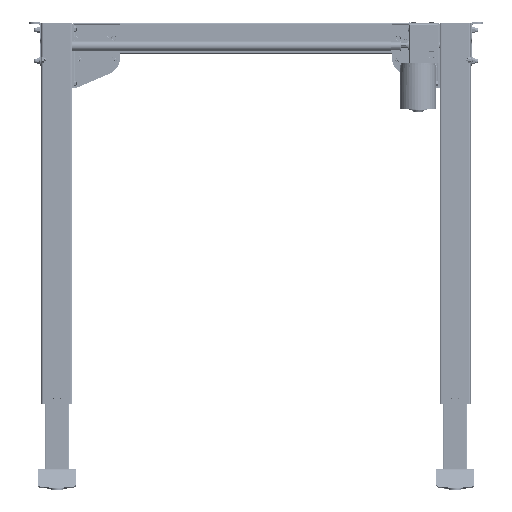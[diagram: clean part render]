
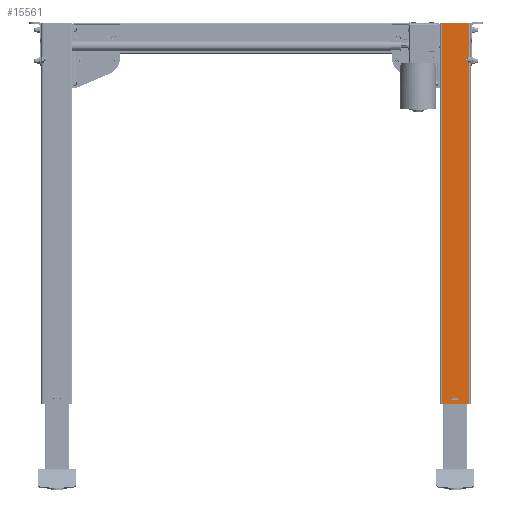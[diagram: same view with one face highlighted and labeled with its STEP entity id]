
A CAD part, top view. The second image highlights one B-rep face of the part: STEP entity #15561.
In plain terms, the highlighted planar face has unit normal (0, 0, 1) as drawn and (0, 1, 0) by its records, which use the part's own axes.
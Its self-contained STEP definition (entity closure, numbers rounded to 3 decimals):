
#378 = DIRECTION ( 'NONE',  ( -1., 0., 0. ) ) ;
#8198 = VECTOR ( 'NONE', #103008, 1000. ) ;
#14270 = DIRECTION ( 'NONE',  ( 0., 0., -1. ) ) ;
#15315 = CARTESIAN_POINT ( 'NONE',  ( 22., 35., 0. ) ) ;
#15561 = ADVANCED_FACE ( 'NONE', ( #105110, #92235 ), #144505, .F. ) ;
#16232 = CARTESIAN_POINT ( 'NONE',  ( 22., 35., 616.5 ) ) ;
#19795 = EDGE_CURVE ( 'NONE', #75731, #146938, #153726, .T. ) ;
#24553 = ORIENTED_EDGE ( 'NONE', *, *, #154688, .F. ) ;
#25128 = CARTESIAN_POINT ( 'NONE',  ( 6.15, 35., 6. ) ) ;
#30362 = EDGE_CURVE ( 'NONE', #53455, #118197, #41592, .T. ) ;
#30635 = DIRECTION ( 'NONE',  ( 0., 0., -1. ) ) ;
#33757 = EDGE_CURVE ( 'NONE', #114489, #56693, #90021, .T. ) ;
#34145 = DIRECTION ( 'NONE',  ( -1., 0., 0. ) ) ;
#38161 = LINE ( 'NONE', #92091, #129318 ) ;
#41381 = VERTEX_POINT ( 'NONE', #15315 ) ;
#41592 = LINE ( 'NONE', #65660, #130582 ) ;
#45037 = EDGE_LOOP ( 'NONE', ( #65781, #48780, #24553, #114649 ) ) ;
#46722 = CARTESIAN_POINT ( 'NONE',  ( 6.15, 35., 10. ) ) ;
#47264 = CARTESIAN_POINT ( 'NONE',  ( -22., 35., 614. ) ) ;
#47714 = VECTOR ( 'NONE', #34145, 1000. ) ;
#48780 = ORIENTED_EDGE ( 'NONE', *, *, #19795, .F. ) ;
#51001 = LINE ( 'NONE', #132283, #51209 ) ;
#51209 = VECTOR ( 'NONE', #378, 1000. ) ;
#51275 = VECTOR ( 'NONE', #143367, 1000. ) ;
#52201 = CARTESIAN_POINT ( 'NONE',  ( -6.15, 35., 10. ) ) ;
#53455 = VERTEX_POINT ( 'NONE', #66548 ) ;
#54480 = DIRECTION ( 'NONE',  ( 0., 0., 1. ) ) ;
#56693 = VERTEX_POINT ( 'NONE', #121302 ) ;
#65660 = CARTESIAN_POINT ( 'NONE',  ( -6.15, 35., 6. ) ) ;
#65781 = ORIENTED_EDGE ( 'NONE', *, *, #124674, .F. ) ;
#66548 = CARTESIAN_POINT ( 'NONE',  ( -6.15, 35., 6. ) ) ;
#69972 = ORIENTED_EDGE ( 'NONE', *, *, #92012, .T. ) ;
#70881 = EDGE_LOOP ( 'NONE', ( #69972, #166263, #146493, #138895 ) ) ;
#72654 = LINE ( 'NONE', #163489, #117498 ) ;
#75731 = VERTEX_POINT ( 'NONE', #46722 ) ;
#79392 = CARTESIAN_POINT ( 'NONE',  ( -22., 35., 614. ) ) ;
#90021 = LINE ( 'NONE', #47264, #144500 ) ;
#92012 = EDGE_CURVE ( 'NONE', #41381, #56693, #38161, .T. ) ;
#92091 = CARTESIAN_POINT ( 'NONE',  ( -22., 35., 0. ) ) ;
#92235 = FACE_OUTER_BOUND ( 'NONE', #70881, .T. ) ;
#93259 = LINE ( 'NONE', #114153, #8198 ) ;
#99815 = EDGE_CURVE ( 'NONE', #145050, #41381, #72654, .T. ) ;
#103008 = DIRECTION ( 'NONE',  ( 1., 0., 0. ) ) ;
#105110 = FACE_BOUND ( 'NONE', #45037, .T. ) ;
#112340 = DIRECTION ( 'NONE',  ( 0., 0., -1. ) ) ;
#114153 = CARTESIAN_POINT ( 'NONE',  ( 6.15, 35., 10. ) ) ;
#114489 = VERTEX_POINT ( 'NONE', #146804 ) ;
#114649 = ORIENTED_EDGE ( 'NONE', *, *, #30362, .F. ) ;
#117498 = VECTOR ( 'NONE', #30635, 1000. ) ;
#118197 = VERTEX_POINT ( 'NONE', #52201 ) ;
#121302 = CARTESIAN_POINT ( 'NONE',  ( -22., 35., 0. ) ) ;
#121589 = AXIS2_PLACEMENT_3D ( 'NONE', #79392, #131647, #14270 ) ;
#124674 = EDGE_CURVE ( 'NONE', #146938, #53455, #51001, .T. ) ;
#129318 = VECTOR ( 'NONE', #145207, 1000. ) ;
#130582 = VECTOR ( 'NONE', #54480, 1000. ) ;
#131647 = DIRECTION ( 'NONE',  ( 0., -1., 0. ) ) ;
#132283 = CARTESIAN_POINT ( 'NONE',  ( 6.15, 35., 6. ) ) ;
#138895 = ORIENTED_EDGE ( 'NONE', *, *, #99815, .T. ) ;
#143367 = DIRECTION ( 'NONE',  ( 0., 0., -1. ) ) ;
#144500 = VECTOR ( 'NONE', #112340, 1000. ) ;
#144505 = PLANE ( 'NONE',  #121589 ) ;
#145050 = VERTEX_POINT ( 'NONE', #16232 ) ;
#145207 = DIRECTION ( 'NONE',  ( -1., 0., 0. ) ) ;
#145334 = EDGE_CURVE ( 'NONE', #145050, #114489, #164430, .T. ) ;
#146493 = ORIENTED_EDGE ( 'NONE', *, *, #145334, .F. ) ;
#146804 = CARTESIAN_POINT ( 'NONE',  ( -22., 35., 616.5 ) ) ;
#146938 = VERTEX_POINT ( 'NONE', #169159 ) ;
#151549 = CARTESIAN_POINT ( 'NONE',  ( 22., 35., 616.5 ) ) ;
#153726 = LINE ( 'NONE', #25128, #51275 ) ;
#154688 = EDGE_CURVE ( 'NONE', #118197, #75731, #93259, .T. ) ;
#163489 = CARTESIAN_POINT ( 'NONE',  ( 22., 35., 614. ) ) ;
#164430 = LINE ( 'NONE', #151549, #47714 ) ;
#166263 = ORIENTED_EDGE ( 'NONE', *, *, #33757, .F. ) ;
#169159 = CARTESIAN_POINT ( 'NONE',  ( 6.15, 35., 6. ) ) ;
